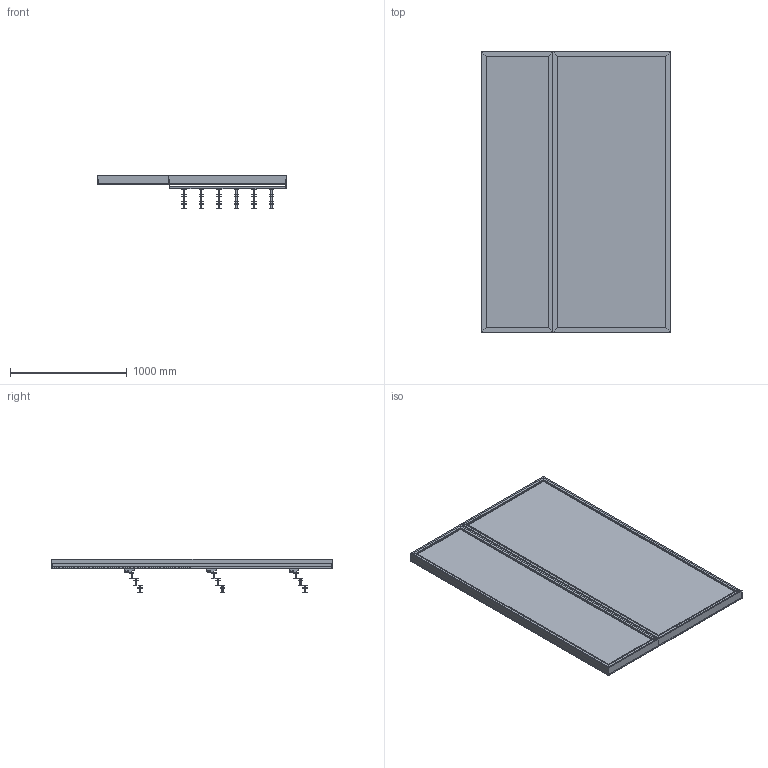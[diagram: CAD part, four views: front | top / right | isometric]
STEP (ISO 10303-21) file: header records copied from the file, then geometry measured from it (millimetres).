
FILE_DESCRIPTION (( 'STEP AP203' ), '1' );
FILE_NAME ('Padel Retail Display - Padel & Graphic Stepped.STEP', '2026-03-30T11:54:19', ( '' ), ( '' ), 'SwSTEP 2.0', 'SolidWorks 2025', '' );
FILE_SCHEMA (( 'CONFIG_CONTROL_DESIGN' ));
Length unit declared in the file: millimetre
Products named in the file (9): 0001-31-GA10 - 1005W Slotted upbright; 0001-31-SA26 - 1005W Rear support Bar.STEP; Padel Racket Display 1005mm - 3 Tier Stepped Holder_Assem4; 0001-31-GA01 - 610W Slotted Upright; 0001-31-103.STEP; 0001-31-131.STEP; 0001-31-SA26 - 1005W Rear support Bar_Assem8; Padel Retail Display - Padel & Graphic Stepped; 370-01-GA01
Assembly tree (22 placements, depth 5):
  Padel Retail Display - Padel & Graphic Stepped
    Padel Racket Display 1005mm - 3 Tier Stepped Holder_Assem4
      0001-31-GA10 - 1005W Slotted upbright
      0001-31-SA26 - 1005W Rear support Bar_Assem8  x3
        0001-31-SA26 - 1005W Rear support Bar.STEP
          0001-31-103.STEP  x2
          0001-31-131.STEP
      370-01-GA01  x12
    0001-31-GA01 - 610W Slotted Upright
Bounding box: 1615.49 x 2400 x 290.15 mm (x, y, z)
Volume: 16126200 mm3; surface area: 21366259 mm2
Topology: 249 solids, 249 shells, 2938 faces, 7890 edges, 5228 vertices
Faces by surface type: plane 1804, cylinder 1134
Entity records: 45372 total; most frequent: CARTESIAN_POINT 8514, ORIENTED_EDGE 8066, DIRECTION 6465, EDGE_CURVE 4033, VECTOR 3655, LINE 3655, VERTEX_POINT 2686, EDGE_LOOP 1469
